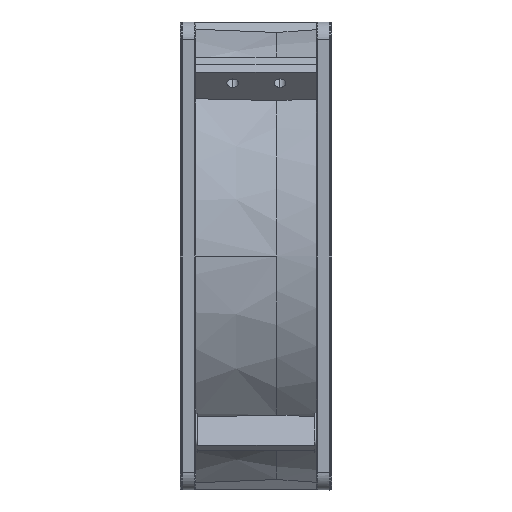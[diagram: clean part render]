
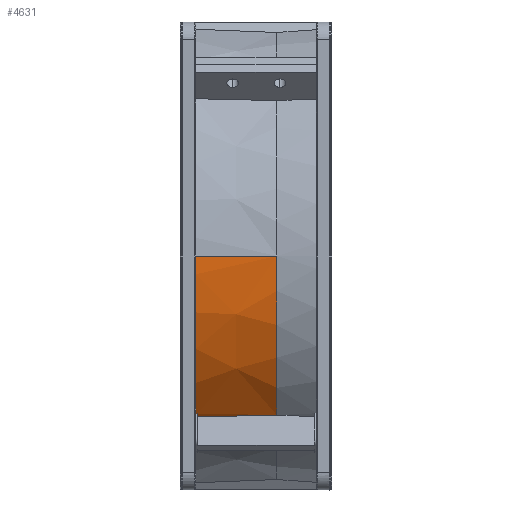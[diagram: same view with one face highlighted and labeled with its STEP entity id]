
A CAD part, left-side view. The second image highlights one B-rep face of the part: STEP entity #4631.
In plain terms, the highlighted conical face has half-angle 1.852 degrees and reference radius 58.716 mm.
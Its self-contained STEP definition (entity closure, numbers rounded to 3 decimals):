
#20 = ORIENTED_EDGE ( 'NONE', *, *, #7163, .F. ) ;
#98 = CARTESIAN_POINT ( 'NONE',  ( 0., 34.65, 0. ) ) ;
#424 = CARTESIAN_POINT ( 'NONE',  ( -59.361, 34.697, -1.692 ) ) ;
#500 = CARTESIAN_POINT ( 'NONE',  ( -59.343, 34.687, -2.227 ) ) ;
#517 = AXIS2_PLACEMENT_3D ( 'NONE', #4612, #2316, #5114 ) ;
#818 = VERTEX_POINT ( 'NONE', #4396 ) ;
#942 = CARTESIAN_POINT ( 'NONE',  ( -42.568, 13.996, -40.441 ) ) ;
#1001 = CARTESIAN_POINT ( 'NONE',  ( -59.386, 34.714, 0. ) ) ;
#1045 = CIRCLE ( 'NONE', #2645, 59.367 ) ;
#1059 = ORIENTED_EDGE ( 'NONE', *, *, #3831, .F. ) ;
#1077 = CARTESIAN_POINT ( 'NONE',  ( -59.374, 34.705, -1.19 ) ) ;
#1154 = CARTESIAN_POINT ( 'NONE',  ( -59.234, 34.65, -4.236 ) ) ;
#1351 = EDGE_CURVE ( 'NONE', #7561, #1951, #2189, .T. ) ;
#1500 = VECTOR ( 'NONE', #4558, 1000. ) ;
#1762 = CIRCLE ( 'NONE', #2728, 59.384 ) ;
#1806 = CARTESIAN_POINT ( 'NONE',  ( 0., 34.15, 0. ) ) ;
#1951 = VERTEX_POINT ( 'NONE', #1001 ) ;
#1961 = EDGE_CURVE ( 'NONE', #7561, #2897, #2849, .T. ) ;
#1998 = CARTESIAN_POINT ( 'NONE',  ( -58.716, 13.996, 0. ) ) ;
#2120 = CARTESIAN_POINT ( 'NONE',  ( -43.817, 34.15, -40.057 ) ) ;
#2151 = VERTEX_POINT ( 'NONE', #2120 ) ;
#2189 = LINE ( 'NONE', #5106, #1500 ) ;
#2214 = B_SPLINE_CURVE_WITH_KNOTS ( 'NONE', 3,
 ( #942, #7376, #5651, #4504 ),
 .UNSPECIFIED., .F., .F.,
 ( 4, 4 ),
 ( 0., 1. ),
 .UNSPECIFIED. ) ;
#2232 = ORIENTED_EDGE ( 'NONE', *, *, #1961, .F. ) ;
#2290 = EDGE_CURVE ( 'NONE', #1951, #5889, #7356, .T. ) ;
#2316 = DIRECTION ( 'NONE',  ( 0., -1., 0. ) ) ;
#2330 = CARTESIAN_POINT ( 'NONE',  ( -43.821, 34.317, -40.061 ) ) ;
#2486 = EDGE_LOOP ( 'NONE', ( #2232, #7422, #2771, #1059, #7097, #5143, #20 ) ) ;
#2645 = AXIS2_PLACEMENT_3D ( 'NONE', #1806, #6468, #4136 ) ;
#2669 = DIRECTION ( 'NONE',  ( 0., 1., 0. ) ) ;
#2722 = CARTESIAN_POINT ( 'NONE',  ( -43.828, 34.65, -40.069 ) ) ;
#2728 = AXIS2_PLACEMENT_3D ( 'NONE', #98, #3122, #4734 ) ;
#2767 = CARTESIAN_POINT ( 'NONE',  ( -59.35, 34.691, -2.038 ) ) ;
#2771 = ORIENTED_EDGE ( 'NONE', *, *, #2290, .T. ) ;
#2842 = CARTESIAN_POINT ( 'NONE',  ( -59.297, 34.662, -3.425 ) ) ;
#2849 = CIRCLE ( 'NONE', #517, 58.716 ) ;
#2884 = CARTESIAN_POINT ( 'NONE',  ( -59.386, 34.714, -0.298 ) ) ;
#2897 = VERTEX_POINT ( 'NONE', #6205 ) ;
#3122 = DIRECTION ( 'NONE',  ( 0., 1., 0. ) ) ;
#3420 = CARTESIAN_POINT ( 'NONE',  ( -59.345, 34.688, -2.183 ) ) ;
#3831 = EDGE_CURVE ( 'NONE', #5487, #5889, #1762, .T. ) ;
#3887 = CARTESIAN_POINT ( 'NONE',  ( 0., 13.996, 0. ) ) ;
#3945 = CARTESIAN_POINT ( 'NONE',  ( -59.356, 34.694, -1.849 ) ) ;
#4136 = DIRECTION ( 'NONE',  ( -1., 0., 0. ) ) ;
#4265 = B_SPLINE_CURVE_WITH_KNOTS ( 'NONE', 3,
 ( #4663, #5164, #2330, #7498 ),
 .UNSPECIFIED., .F., .F.,
 ( 4, 4 ),
 ( 0., 1. ),
 .UNSPECIFIED. ) ;
#4307 = EDGE_CURVE ( 'NONE', #5487, #2151, #4265, .T. ) ;
#4396 = CARTESIAN_POINT ( 'NONE',  ( -43.006, 34.15, -40.927 ) ) ;
#4488 = CARTESIAN_POINT ( 'NONE',  ( -59.386, 34.714, 0. ) ) ;
#4504 = CARTESIAN_POINT ( 'NONE',  ( -43.006, 34.15, -40.927 ) ) ;
#4558 = DIRECTION ( 'NONE',  ( -0.032, 0.999, 0. ) ) ;
#4612 = CARTESIAN_POINT ( 'NONE',  ( 0., 13.996, 0. ) ) ;
#4631 = ADVANCED_FACE ( 'NONE', ( #5581 ), #5174, .T. ) ;
#4663 = CARTESIAN_POINT ( 'NONE',  ( -43.828, 34.65, -40.069 ) ) ;
#4734 = DIRECTION ( 'NONE',  ( -1., 0., 0. ) ) ;
#4796 = CARTESIAN_POINT ( 'NONE',  ( -59.2, 34.65, -4.666 ) ) ;
#5106 = CARTESIAN_POINT ( 'NONE',  ( -58.716, 13.996, 0. ) ) ;
#5108 = CARTESIAN_POINT ( 'NONE',  ( -59.344, 34.687, -2.207 ) ) ;
#5114 = DIRECTION ( 'NONE',  ( 1., 0., 0. ) ) ;
#5143 = ORIENTED_EDGE ( 'NONE', *, *, #7013, .T. ) ;
#5164 = CARTESIAN_POINT ( 'NONE',  ( -43.824, 34.483, -40.065 ) ) ;
#5174 = CONICAL_SURFACE ( 'NONE', #7126, 58.716, 0.032 ) ;
#5179 = CARTESIAN_POINT ( 'NONE',  ( -59.346, 34.689, -2.134 ) ) ;
#5487 = VERTEX_POINT ( 'NONE', #2722 ) ;
#5581 = FACE_OUTER_BOUND ( 'NONE', #2486, .T. ) ;
#5651 = CARTESIAN_POINT ( 'NONE',  ( -42.86, 27.432, -40.765 ) ) ;
#5676 = CARTESIAN_POINT ( 'NONE',  ( -59.369, 34.702, -1.386 ) ) ;
#5753 = CARTESIAN_POINT ( 'NONE',  ( -59.343, 34.687, -2.218 ) ) ;
#5889 = VERTEX_POINT ( 'NONE', #5925 ) ;
#5925 = CARTESIAN_POINT ( 'NONE',  ( -59.2, 34.65, -4.666 ) ) ;
#6205 = CARTESIAN_POINT ( 'NONE',  ( -42.568, 13.996, -40.441 ) ) ;
#6323 = CARTESIAN_POINT ( 'NONE',  ( -59.383, 34.712, -0.632 ) ) ;
#6468 = DIRECTION ( 'NONE',  ( 0., -1., 0. ) ) ;
#7013 = EDGE_CURVE ( 'NONE', #2151, #818, #1045, .T. ) ;
#7097 = ORIENTED_EDGE ( 'NONE', *, *, #4307, .T. ) ;
#7126 = AXIS2_PLACEMENT_3D ( 'NONE', #3887, #2669, #7226 ) ;
#7163 = EDGE_CURVE ( 'NONE', #2897, #818, #2214, .T. ) ;
#7226 = DIRECTION ( 'NONE',  ( -1., 0., 0. ) ) ;
#7356 = B_SPLINE_CURVE_WITH_KNOTS ( 'NONE', 3,
 ( #4488, #2884, #6323, #1077, #5676, #424, #3945, #2767, #5179, #3420, #5108, #5753, #7438, #500, #2842, #1154, #4796 ),
 .UNSPECIFIED., .F., .F.,
 ( 4, 2, 2, 1, 1, 1, 1, 1, 2, 2, 4 ),
 ( 0.498, 0.623, 0.686, 0.717, 0.733, 0.741, 0.745, 0.747, 0.748, 0.749, 1. ),
 .UNSPECIFIED. ) ;
#7376 = CARTESIAN_POINT ( 'NONE',  ( -42.714, 20.714, -40.603 ) ) ;
#7422 = ORIENTED_EDGE ( 'NONE', *, *, #1351, .T. ) ;
#7438 = CARTESIAN_POINT ( 'NONE',  ( -59.343, 34.687, -2.225 ) ) ;
#7498 = CARTESIAN_POINT ( 'NONE',  ( -43.817, 34.15, -40.057 ) ) ;
#7561 = VERTEX_POINT ( 'NONE', #1998 ) ;
